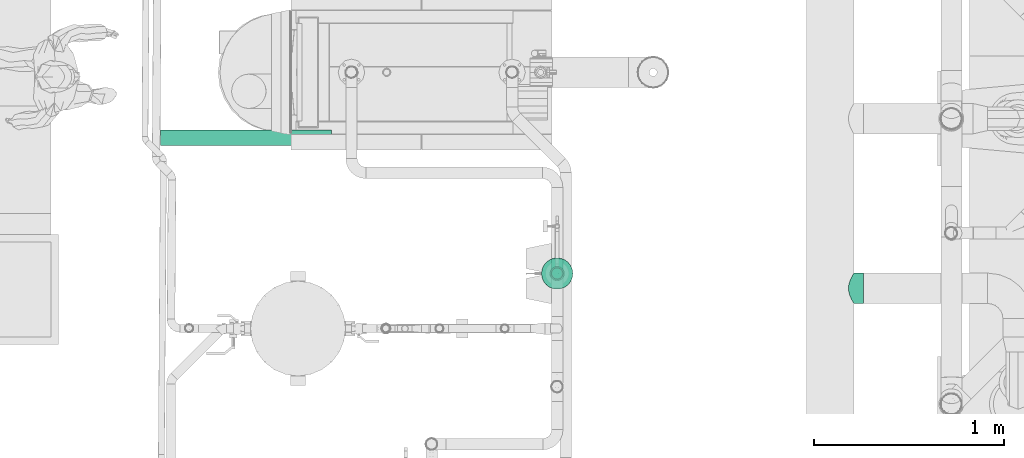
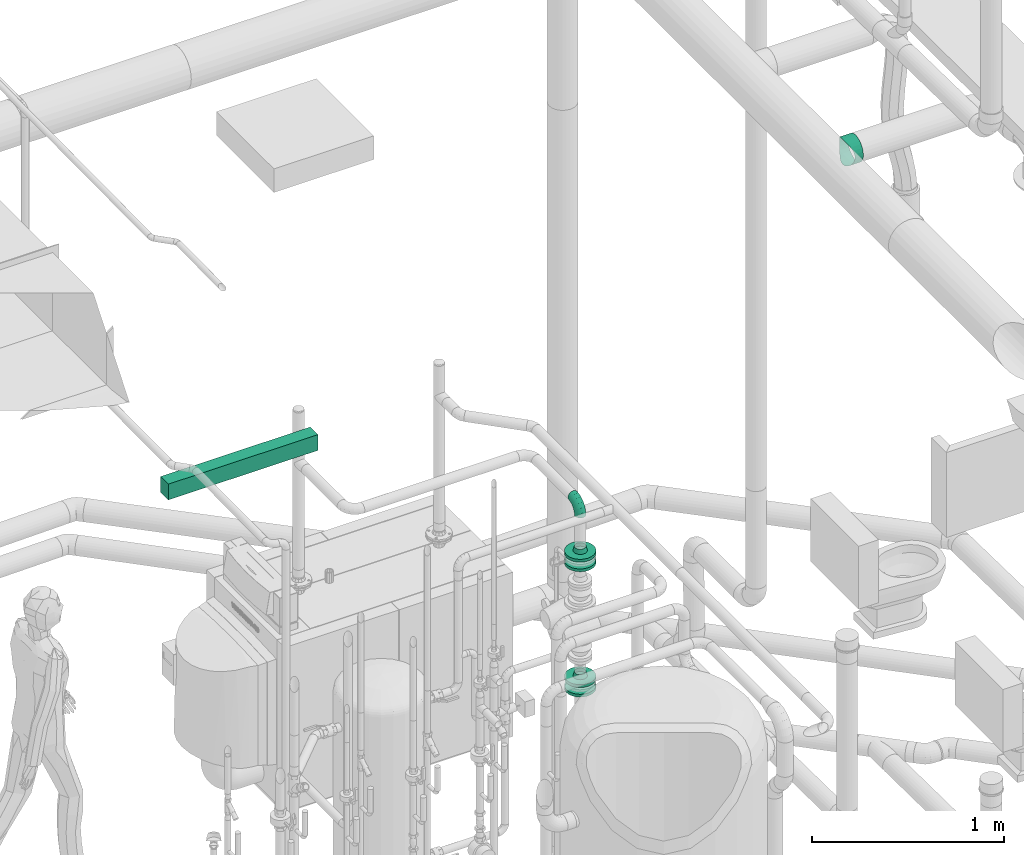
# One storey, part 117 of 374: 4 flow fittings, 2 flow segments, 1 distribution element.
"""IFC2X3 building model written with IfcOpenShell, lengths in metres."""

import ifcopenshell
import ifcopenshell.guid

model = None  # the IFC model being written
_history = None  # IfcOwnerHistory: only IFC2X3 demands one
_inside = {}  # id of a spatial element -> (the spatial element, [elements in it])
_under = {}  # id of a project, library or spatial element -> (it, [spatial elements below it])
_declared = {}  # id of a project -> (the project, [libraries it declares])
_typed = {}  # id of a type object -> (the type object, [elements of that type])
_made_of = {}  # id of a material, layer set ... -> (it, [elements and type objects made of it])


def new_model(schema):
    """Start an empty IFC model of exactly this schema.

    Asked for "IFC4X3", IfcOpenShell would pick the latest addendum, in which some entities
    have other attributes; the version numbers below select the first issue.
    IFC2X3 requires an IfcOwnerHistory on every rooted entity: one is made here for all.
    """
    global model, _history
    if schema == "IFC4X3":
        model = ifcopenshell.file(schema_version=(4, 3, 0, 0))
    else:
        model = ifcopenshell.file(schema=schema)
    _inside.clear()
    _under.clear()
    _declared.clear()
    _typed.clear()
    _made_of.clear()
    _history = None
    if model.schema == "IFC2X3":
        org = make("IfcOrganization", Name="unknown")
        user = make(
            "IfcPersonAndOrganization",
            ThePerson=make("IfcPerson", FamilyName="unknown"),
            TheOrganization=org,
        )
        app = make(
            "IfcApplication",
            ApplicationDeveloper=org,
            Version="unknown",
            ApplicationFullName="unknown",
            ApplicationIdentifier="unknown",
        )
        _history = make(
            "IfcOwnerHistory",
            OwningUser=user,
            OwningApplication=app,
            ChangeAction="ADDED",
            CreationDate=0,
        )
    return model


def make(cls, **values):
    """One entity of the class cls with the attributes given. An attribute that is None is left unset."""
    return model.create_entity(
        cls, **{name: value for name, value in values.items() if value is not None}
    )


def rooted(cls, **values):
    """An entity with a GlobalId (a new one), such as an element, a storey or a relation."""
    return make(cls, GlobalId=ifcopenshell.guid.new(), OwnerHistory=_history, **values)


def si_unit(unit_type, name, prefix=None):
    """IfcSIUnit, for example si_unit("LENGTHUNIT", "METRE", prefix="MILLI")."""
    return make("IfcSIUnit", UnitType=unit_type, Prefix=prefix, Name=name)


def assignment(units):
    """IfcUnitAssignment: the units of a project."""
    return None if units is None else make("IfcUnitAssignment", Units=units)


def point(xyz):
    """IfcCartesianPoint."""
    return None if xyz is None else make("IfcCartesianPoint", Coordinates=xyz)


def direction(xyz):
    """IfcDirection."""
    return None if xyz is None else make("IfcDirection", DirectionRatios=xyz)


def frame(location, z_axis=None, x_axis=None):
    """IfcAxis2Placement3D, a coordinate frame: its origin and axes. An axis left out is left unset."""
    return make(
        "IfcAxis2Placement3D",
        Location=point(location),
        Axis=direction(z_axis),
        RefDirection=direction(x_axis),
    )


def frame_2d(location, x_axis=None):
    """IfcAxis2Placement2D, a coordinate frame in the plane: its origin and x axis."""
    return make(
        "IfcAxis2Placement2D", Location=point(location), RefDirection=direction(x_axis)
    )


def origin():
    """The frame at (0, 0, 0) with its axes left unset."""
    return frame((0.0, 0.0, 0.0))


def place(relative_to, where):
    """IfcLocalPlacement: puts the frame where relative to a parent placement (None: the world)."""
    return make(
        "IfcLocalPlacement", PlacementRelTo=relative_to, RelativePlacement=where
    )


def context(
    kind, dimensions, precision=None, world=None, true_north=None, identifier=None
):
    """IfcGeometricRepresentationContext, for example the 3D "Model" context."""
    return make(
        "IfcGeometricRepresentationContext",
        ContextIdentifier=identifier,
        ContextType=kind,
        CoordinateSpaceDimension=dimensions,
        Precision=precision,
        WorldCoordinateSystem=world,
        TrueNorth=true_north,
    )


def subcontext(parent, identifier, kind, view, scale=None):
    """IfcGeometricRepresentationSubContext, for example "Body" below "Model"."""
    return make(
        "IfcGeometricRepresentationSubContext",
        ContextIdentifier=identifier,
        ContextType=kind,
        ParentContext=parent,
        TargetScale=scale,
        TargetView=view,
    )


def project(units=None, contexts=None):
    """IfcProject with its units and contexts."""
    return rooted(
        "IfcProject",
        Name="project",
        RepresentationContexts=contexts,
        UnitsInContext=assignment(units),
    )


def spatial(cls, under=None, at=None, **own):
    """A site, building, storey or space (cls), placed at a placement, below another one or the project."""
    s = rooted(cls, ObjectPlacement=at, **own)
    if under is not None:
        _under.setdefault(under.id(), (under, []))[1].append(s)
    return s


def profile(cls, at=None, kind="AREA", **sizes):
    """A parametric profile (cls). Its sizes go by their IFC names, for example OverallWidth=200.0."""
    return make(cls, ProfileType=kind, Position=at, **sizes)


def rectangle(**sizes):
    """IfcRectangleProfileDef."""
    return profile("IfcRectangleProfileDef", **sizes)


def extrude(swept, where, along, depth):
    """IfcExtrudedAreaSolid: the profile swept, set in the frame where, extruded along a direction by depth."""
    return make(
        "IfcExtrudedAreaSolid",
        SweptArea=swept,
        Position=where,
        ExtrudedDirection=direction(along),
        Depth=depth,
    )


def faces_of(points, faces, orient=None, outer=None):
    """IfcFace entities. A face is a list of loops; a loop is a list of indices into points, from 0.

    orient and outer hold one flag for each loop. By default every Orientation is true, the
    first loop of a face is its IfcFaceOuterBound and the others are IfcFaceBound.
    """
    made = []
    for i, loops in enumerate(faces):
        bounds = []
        for j, loop in enumerate(loops):
            is_outer = j == 0 if outer is None else outer[i][j]
            bounds.append(
                make(
                    "IfcFaceOuterBound" if is_outer else "IfcFaceBound",
                    Bound=make("IfcPolyLoop", Polygon=[points[k] for k in loop]),
                    Orientation=True if orient is None else orient[i][j],
                )
            )
        made.append(make("IfcFace", Bounds=bounds))
    return made


def open_shell(faces, orient=None, outer=None):
    """The faces of one IfcOpenShell. surface_model builds it on its shared points."""
    return ("IfcOpenShell", faces, orient, outer)


def surface_model(cls, points, shells):
    """IfcFaceBasedSurfaceModel or IfcShellBasedSurfaceModel (cls): surfaces that need not close."""
    shared = [point(p) for p in points]
    made = [make(c, CfsFaces=faces_of(shared, fs, o, b)) for c, fs, o, b in shells]
    if cls == "IfcFaceBasedSurfaceModel":
        return make(cls, FbsmFaces=made)
    return make(cls, SbsmBoundary=made)


def shape(context_of_items, identifier, shape_type, items):
    """IfcShapeRepresentation: the items that make up one representation, for example the "Body"."""
    return make(
        "IfcShapeRepresentation",
        ContextOfItems=context_of_items,
        RepresentationIdentifier=identifier,
        RepresentationType=shape_type,
        Items=items,
    )


def source(mapping_origin, context_of_items, identifier, shape_type, items):
    """IfcRepresentationMap: a shape defined once, which mapped items show again and again."""
    return make(
        "IfcRepresentationMap",
        MappingOrigin=mapping_origin,
        MappedRepresentation=shape(context_of_items, identifier, shape_type, items),
    )


def transform(
    local_origin,
    x_axis=None,
    y_axis=None,
    z_axis=None,
    scale=None,
    scale2=None,
    scale3=None,
    uniform=True,
):
    """IfcCartesianTransformationOperator3D, or its non-uniform kind. x_axis, y_axis, z_axis: its Axis1, 2, 3."""
    if uniform:
        return make(
            "IfcCartesianTransformationOperator3D",
            Axis1=direction(x_axis),
            Axis2=direction(y_axis),
            LocalOrigin=point(local_origin),
            Scale=scale,
            Axis3=direction(z_axis),
        )
    return make(
        "IfcCartesianTransformationOperator3DnonUniform",
        Axis1=direction(x_axis),
        Axis2=direction(y_axis),
        LocalOrigin=point(local_origin),
        Scale=scale,
        Axis3=direction(z_axis),
        Scale2=scale2,
        Scale3=scale3,
    )


def mapped(mapping_source, mapping_target):
    """IfcMappedItem: shows the shape of a source again, moved by a transform."""
    return make(
        "IfcMappedItem", MappingSource=mapping_source, MappingTarget=mapping_target
    )


def made_of(thing, what):
    """Note that an element or type object is made of a material, layer set ...; save() writes the relation."""
    if what is not None:
        _made_of.setdefault(what.id(), (what, []))[1].append(thing)
    return thing


def element(
    cls,
    number,
    at=None,
    inside=None,
    cuts=None,
    type_object=None,
    material=None,
    context=None,
    identifier="Body",
    shape_type=None,
    held_by="IfcProductDefinitionShape",
    body=None,
    shapes=None,
    **own,
):
    """One element of the class cls, such as IfcWall. Its Tag is "e" and its number.

    at: its placement. inside: the storey or other place that contains it. cuts: it is an
    opening in that element (IfcRelVoidsElement). A single representation is given by context,
    identifier, shape_type and body (its items); several are given by shapes. held_by: the class
    of the entity that holds the representations. save() writes the other relations.
    """
    e = rooted(cls, Tag="e%d" % number, ObjectPlacement=at, **own)
    if body is not None:
        shapes = [shape(context, identifier, shape_type, body)]
    if shapes is not None:
        e.Representation = make(held_by, Representations=shapes)
    if inside is not None:
        _inside.setdefault(inside.id(), (inside, []))[1].append(e)
    if cuts is not None:
        rooted(
            "IfcRelVoidsElement", RelatingBuildingElement=cuts, RelatedOpeningElement=e
        )
    if type_object is not None:
        _typed.setdefault(type_object.id(), (type_object, []))[1].append(e)
    return made_of(e, material)


def aggregate(whole, parts):
    """IfcRelAggregates: a whole, such as a stair, and the parts it consists of."""
    return rooted("IfcRelAggregates", RelatingObject=whole, RelatedObjects=parts)


def save(model, path):
    """Write the relations noted so far, then the file.

    IfcRelAggregates (storeys below a building ...), IfcRelContainedInSpatialStructure (elements
    in a storey), IfcRelDefinesByType, IfcRelAssociatesMaterial and IfcRelDeclares: one each for
    every whole, place, type object, material and project.
    """
    for whole, parts in _under.values():
        aggregate(whole, parts)
    for where, things in _inside.values():
        rooted(
            "IfcRelContainedInSpatialStructure",
            RelatedElements=things,
            RelatingStructure=where,
        )
    for kind, things in _typed.values():
        rooted("IfcRelDefinesByType", RelatedObjects=things, RelatingType=kind)
    for what, things in _made_of.values():
        rooted("IfcRelAssociatesMaterial", RelatedObjects=things, RelatingMaterial=what)
    for by, libraries in _declared.values():
        rooted("IfcRelDeclares", RelatingContext=by, RelatedDefinitions=libraries)
    model.write(path)


model = new_model("IFC2X3")

# Units and contexts
model_context = context("Model", 3, precision=1e-05, world=origin(), true_north=direction((-0.4480736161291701, 0.8939966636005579)))
body_context = subcontext(model_context, "Body", "Model", "MODEL_VIEW")
ifc_project = project(units=[si_unit("LENGTHUNIT", "METRE"), si_unit("AREAUNIT", "SQUARE_METRE"), si_unit("VOLUMEUNIT", "CUBIC_METRE"), si_unit("PLANEANGLEUNIT", "RADIAN"), si_unit("THERMODYNAMICTEMPERATUREUNIT", "KELVIN"), si_unit("MASSUNIT", "GRAM", prefix="KILO"), si_unit("TIMEUNIT", "SECOND")], contexts=[model_context])

# Site, building, storey
site_placement = place(None, origin())
site = spatial("IfcSite", under=ifc_project, at=site_placement, Name="Site 1", CompositionType="ELEMENT")
building_placement = place(site_placement, origin())
building = spatial("IfcBuilding", under=site, at=building_placement, Name="Undefined", CompositionType="ELEMENT")
storey_placement = place(building_placement, origin())
storey = spatial("IfcBuildingStorey", under=building, at=storey_placement, Name="Rez de chauss\x8ee", CompositionType="ELEMENT", Elevation=0.0)

# Flow segments
shared_shape_1 = source(origin(), body_context, "Body", "SurfaceModel", [
    surface_model("IfcFaceBasedSurfaceModel", [(0.001726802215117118, 0.020884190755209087, 0.0), (0.0, 0.0, 0.0), (0.051726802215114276, 8.8817842e-16, 0.0), (0.051726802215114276, 0.020884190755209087, 0.0), (-0.0048460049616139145, -0.02017257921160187, -0.005405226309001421), (0.051726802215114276, -0.02017257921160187, -0.005405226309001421), (-0.011805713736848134, -0.0382588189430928, -0.015847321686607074), (0.051726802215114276, -0.0382588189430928, -0.015847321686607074), (-0.019229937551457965, -0.05302617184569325, -0.0306146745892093), (0.051726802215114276, -0.05302617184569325, -0.0306146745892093), (-0.025019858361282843, -0.06346826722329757, -0.04870091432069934), (0.051726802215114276, -0.06346826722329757, -0.04870091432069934), (-0.027226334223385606, -0.06887349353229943, -0.06887349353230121), (0.051726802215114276, -0.06887349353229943, -0.06887349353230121), (-0.025019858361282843, -0.06887349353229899, -0.08975768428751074), (0.051726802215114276, -0.06887349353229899, -0.08975768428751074), (-0.019229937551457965, -0.06346826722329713, -0.10993026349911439), (0.051726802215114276, -0.06346826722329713, -0.10993026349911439), (-0.011805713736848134, -0.05302617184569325, -0.12801650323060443), (0.051726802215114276, -0.05302617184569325, -0.12801650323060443), (-0.0048460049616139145, -0.038258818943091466, -0.14278385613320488), (0.051726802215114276, -0.038258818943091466, -0.14278385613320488), (0.0, -0.020172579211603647, -0.15322595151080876), (0.051726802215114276, -0.020172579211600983, -0.15322595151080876), (0.001726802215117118, 2.220446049e-15, -0.15863117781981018), (0.051726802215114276, 2.220446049e-15, -0.15863117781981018), (0.0, 0.020884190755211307, -0.15863117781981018), (0.051726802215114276, 0.020884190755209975, -0.15863117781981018), (-0.0048460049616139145, 0.04105676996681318, -0.15322595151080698), (0.051726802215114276, 0.04105676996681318, -0.15322595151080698), (-0.011805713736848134, 0.05914300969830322, -0.1427838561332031), (0.051726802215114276, 0.05914300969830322, -0.1427838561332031), (-0.019229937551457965, 0.07391036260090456, -0.12801650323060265), (0.051726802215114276, 0.07391036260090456, -0.12801650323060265), (-0.025019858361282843, 0.08435245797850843, -0.10993026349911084), (0.051726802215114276, 0.08435245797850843, -0.10993026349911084), (-0.027226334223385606, 0.08975768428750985, -0.08975768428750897), (0.051726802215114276, 0.08975768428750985, -0.08975768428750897), (-0.025019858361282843, 0.08975768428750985, -0.06887349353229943), (0.051726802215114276, 0.08975768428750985, -0.06887349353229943), (-0.019229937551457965, 0.08435245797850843, -0.048700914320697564), (0.051726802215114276, 0.08435245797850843, -0.048700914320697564), (-0.011805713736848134, 0.07391036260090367, -0.030614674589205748), (0.051726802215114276, 0.07391036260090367, -0.030614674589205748), (-0.0048460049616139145, 0.05914300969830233, -0.01584732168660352), (0.051726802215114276, 0.05914300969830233, -0.01584732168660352), (0.0, 0.04105676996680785, -0.005405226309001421), (0.051726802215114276, 0.04105676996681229, -0.005405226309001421)], [open_shell([[[0, 1, 2, 3]], [[1, 4, 5, 2]], [[4, 6, 7, 5]], [[6, 8, 9, 7]], [[8, 10, 11, 9]], [[10, 12, 13, 11]], [[12, 14, 15, 13]], [[14, 16, 17, 15]], [[16, 18, 19, 17]], [[18, 20, 21, 19]], [[20, 22, 23, 21]], [[22, 24, 25, 23]], [[24, 26, 27, 25]], [[26, 28, 29, 27]], [[28, 30, 31, 29]], [[30, 32, 33, 31]], [[32, 34, 35, 33]], [[34, 36, 37, 35]], [[36, 38, 39, 37]], [[38, 40, 41, 39]], [[40, 42, 43, 41]], [[42, 44, 45, 43]], [[44, 46, 47, 45]], [[46, 0, 3, 47]]])]),
])
flow_segment_1_placement = place(storey_placement, origin())
element("IfcFlowSegment", 1, at=flow_segment_1_placement, inside=storey, Name="Piquage équerre circulaire", ObjectType="Piquage équerre circulaire", context=body_context, shape_type="MappedRepresentation", body=[
    mapped(shared_shape_1, transform((56.559324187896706, 11.842725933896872, 3.779294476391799), x_axis=(1.0, 0.0, 0.0), y_axis=(0.0, -0.1305261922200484, 0.9914448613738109), z_axis=(0.0, -0.9914448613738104, -0.13052619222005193))),
])
shared_shape_2 = source(origin(), body_context, "Body", "SurfaceModel", [
    surface_model("IfcFaceBasedSurfaceModel", [(0.027710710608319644, 4.4408921e-16, 0.0), (0.02757661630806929, 0.00786958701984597, 7.105427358e-15), (0.00013409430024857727, 0.00786958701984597, 0.0), (0.0, 0.0, 0.0), (-0.02637334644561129, 0.008788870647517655, -0.0070429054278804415), (-0.026766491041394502, 0.0009282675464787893, -0.007111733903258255), (-0.050139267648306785, 0.010564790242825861, -0.02064875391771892), (-0.050764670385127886, 0.0027215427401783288, -0.02085054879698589), (-0.06954406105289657, 0.013076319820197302, -0.03989032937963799), (-0.07035910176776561, 0.00525761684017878, -0.04028016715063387), (-0.0832653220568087, 0.01615230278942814, -0.06345635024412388), (-0.08421445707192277, 0.00836366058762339, -0.06407649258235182), (-0.09036796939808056, 0.019583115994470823, -0.08974083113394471), (-0.0913865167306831, 0.011828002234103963, -0.09061784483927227), (0.027183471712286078, 0.015466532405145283, -0.0020199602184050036), (0.0005272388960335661, 0.015466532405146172, -0.0020199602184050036), (-0.025220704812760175, 0.016359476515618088, -0.008861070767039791), (-0.048305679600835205, 0.018084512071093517, -0.02207708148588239), (-0.06715448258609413, 0.020524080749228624, -0.04076734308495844), (-0.0804825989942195, 0.023511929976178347, -0.06365814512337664), (-0.08738173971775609, 0.026844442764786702, -0.08918951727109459), (0.026558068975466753, 0.022273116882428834, -0.005922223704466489), (0.001152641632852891, 0.02227311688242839, -0.005922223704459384), (-0.02338711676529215, 0.023124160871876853, -0.012442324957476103), (-0.04538886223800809, 0.02476825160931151, -0.02503819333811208), (-0.06335321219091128, 0.027093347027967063, -0.042851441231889), (-0.07605592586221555, 0.029940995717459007, -0.06466812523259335), (-0.08263133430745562, 0.033117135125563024, -0.08900147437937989), (0.025743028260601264, 0.0278254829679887, -0.011440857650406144), (0.0019676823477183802, 0.027825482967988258, -0.011440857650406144), (-0.020997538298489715, 0.028621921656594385, -0.017542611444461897), (-0.04158759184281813, 0.03016052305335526, -0.029330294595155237), (-0.058399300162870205, 0.0323364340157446, -0.04600059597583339), (-0.07028697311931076, 0.03500136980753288, -0.06641746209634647), (-0.07644048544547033, 0.0379737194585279, -0.08918951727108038), (0.02479389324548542, 0.03174524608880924, -0.01819977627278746), (0.0029168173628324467, 0.03174524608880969, -0.01819977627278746), (-0.018214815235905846, 0.0324780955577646, -0.023814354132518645), (-0.03716091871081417, 0.033893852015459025, -0.034660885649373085), (-0.052630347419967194, 0.03589603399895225, -0.05000019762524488), (-0.06356888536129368, 0.03834819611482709, -0.06878694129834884), (-0.06923108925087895, 0.041083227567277, -0.0897408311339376), (0.023775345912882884, 0.03376528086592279, -0.02573837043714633), (0.003935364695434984, 0.03376528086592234, -0.02573837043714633), (-0.01522858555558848, 0.03442989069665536, -0.03083014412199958), (-0.0324105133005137, 0.03571381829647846, -0.040666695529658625), (-0.046439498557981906, 0.0375295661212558, -0.05457767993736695), (-0.05635948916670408, 0.039753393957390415, -0.07161508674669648), (-0.061494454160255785, 0.04223375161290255, -0.09061784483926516), (0.022756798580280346, 0.03374792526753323, -0.033542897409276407), (0.0049539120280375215, 0.033747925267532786, -0.033542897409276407), (-0.01224235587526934, 0.03434429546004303, -0.03811186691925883), (-0.027660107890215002, 0.035496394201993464, -0.04693843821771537), (-0.040248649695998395, 0.0371257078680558, -0.05942109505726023), (-0.04915009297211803, 0.039121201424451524, -0.07470916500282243), (-0.05375781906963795, 0.041346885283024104, -0.09176079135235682), (0.02180766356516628, 0.03169436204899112, -0.04108149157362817), (0.005903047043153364, 0.031694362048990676, -0.04108149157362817), (-0.00945963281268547, 0.03222714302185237, -0.045163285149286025), (-0.02323343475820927, 0.03325639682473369, -0.05304870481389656), (-0.034479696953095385, 0.034711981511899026, -0.06420037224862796), (-0.04243200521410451, 0.036494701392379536, -0.07785831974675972), (-0.04654842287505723, 0.03848306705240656, -0.09309178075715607), (0.020992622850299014, 0.02774453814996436, -0.0478404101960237), (0.006718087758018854, 0.027744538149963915, -0.0478404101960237), (-0.007070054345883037, 0.02822271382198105, -0.05150385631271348), (-0.019432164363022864, 0.0291464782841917, -0.0585810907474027), (-0.029525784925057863, 0.030452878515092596, -0.06858981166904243), (-0.03666305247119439, 0.032052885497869, -0.08084794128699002), (-0.04035757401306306, 0.03383746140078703, -0.09452010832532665), (0.020367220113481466, 0.022167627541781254, -0.05335904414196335), (0.0073434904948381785, 0.022167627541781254, -0.05335904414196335), (-0.00523646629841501, 0.02260390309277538, -0.05670148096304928), (-0.016515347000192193, 0.023446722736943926, -0.06315857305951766), (-0.025724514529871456, 0.02463864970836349, -0.07229028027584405), (-0.03223637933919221, 0.02609845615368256, -0.0834742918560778), (-0.03560716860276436, 0.027726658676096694, -0.09594843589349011), (0.019974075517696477, 0.01534368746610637, -0.05726130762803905), (0.007736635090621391, 0.01534368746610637, -0.05726130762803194), (-0.004083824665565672, 0.01575362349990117, -0.06040194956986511), (-0.014681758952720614, 0.01654555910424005, -0.06646920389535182), (-0.02333493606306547, 0.01766552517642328, -0.07504959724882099), (-0.029453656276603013, 0.01903719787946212, -0.08555839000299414), (-0.032620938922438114, 0.02056709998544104, -0.09727942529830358), (0.019839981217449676, 0.00773775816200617, -0.05928126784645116), (0.007870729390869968, 0.007737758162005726, -0.05928126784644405), (-0.003690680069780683, 0.008138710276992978, -0.062353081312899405), (-0.014056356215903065, 0.008913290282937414, -0.06828736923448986), (-0.022519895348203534, 0.01000871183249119, -0.07667971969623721), (-0.0285045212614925, 0.011350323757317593, -0.08695820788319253), (-0.03160239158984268, 0.012846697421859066, -0.09842237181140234), (0.019974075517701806, -0.0001318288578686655, -0.05928126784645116), (0.007736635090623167, -0.0001318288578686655, -0.059281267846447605), (-0.004083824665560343, 0.0002781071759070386, -0.062421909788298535), (-0.014681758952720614, 0.001070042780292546, -0.06848916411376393), (-0.02333493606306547, 0.0021900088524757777, -0.0770695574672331), (-0.029453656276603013, 0.0035616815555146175, -0.08757835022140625), (-0.032620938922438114, 0.005091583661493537, -0.09929938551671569), (0.020367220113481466, -0.007728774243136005, -0.057261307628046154), (0.0073434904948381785, -0.007728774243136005, -0.057261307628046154), (-0.00523646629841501, -0.00729249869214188, -0.06060374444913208), (-0.016515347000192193, -0.0064496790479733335, -0.06706083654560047), (-0.025724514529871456, -0.005257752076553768, -0.07619254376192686), (-0.03223637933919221, -0.0037979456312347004, -0.0873765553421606), (-0.03560716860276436, -0.0021697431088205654, -0.09985069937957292), (0.020992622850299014, -0.01453535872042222, -0.053359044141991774), (0.006718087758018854, -0.014535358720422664, -0.053359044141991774), (-0.007070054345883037, -0.01405718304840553, -0.05702249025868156), (-0.019432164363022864, -0.013133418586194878, -0.06409972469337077), (-0.029525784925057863, -0.011827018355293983, -0.07410844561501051), (-0.03666305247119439, -0.01022701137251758, -0.0863665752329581), (-0.04035757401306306, -0.008442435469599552, -0.10003874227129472), (0.02180766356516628, -0.020087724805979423, -0.04784041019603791), (0.005903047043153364, -0.020087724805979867, -0.04784041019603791), (-0.00945963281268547, -0.019554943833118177, -0.05192220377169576), (-0.02323343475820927, -0.018525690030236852, -0.0598076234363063), (-0.034479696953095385, -0.017070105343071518, -0.0709592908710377), (-0.04243200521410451, -0.015287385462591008, -0.08461723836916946), (-0.04654842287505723, -0.013299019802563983, -0.09985069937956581), (0.022756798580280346, -0.024007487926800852, -0.0410814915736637), (0.0049539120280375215, -0.024007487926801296, -0.0410814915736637), (-0.01224235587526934, -0.023411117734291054, -0.04565046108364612), (-0.027660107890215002, -0.022259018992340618, -0.054477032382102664), (-0.040248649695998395, -0.02062970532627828, -0.06695968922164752), (-0.04915009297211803, -0.018634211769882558, -0.08224775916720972), (-0.05375781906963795, -0.016408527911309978, -0.09929938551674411), (0.023775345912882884, -0.026027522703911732, -0.033542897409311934), (0.003935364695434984, -0.026027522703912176, -0.033542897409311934), (-0.01522858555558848, -0.025362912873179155, -0.038634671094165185), (-0.0324105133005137, -0.024078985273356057, -0.04847122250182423), (-0.046439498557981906, -0.02226323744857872, -0.062382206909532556), (-0.05635948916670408, -0.020039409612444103, -0.07941961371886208), (-0.061494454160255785, -0.01755905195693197, -0.09842237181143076), (0.02479389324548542, -0.02601016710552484, -0.02573837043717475), (0.0029168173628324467, -0.026010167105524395, -0.02573837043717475), (-0.018214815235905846, -0.025277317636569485, -0.031352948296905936), (-0.03716091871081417, -0.023861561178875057, -0.04219947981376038), (-0.052630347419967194, -0.021859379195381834, -0.05753879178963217), (-0.06356888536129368, -0.01940721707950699, -0.07632553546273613), (-0.06923108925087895, -0.01667218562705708, -0.0972794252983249), (0.025743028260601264, -0.023956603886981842, -0.018199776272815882), (0.0019676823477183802, -0.023956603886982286, -0.018199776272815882), (-0.020997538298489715, -0.02316016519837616, -0.024301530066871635), (-0.04158759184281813, -0.021621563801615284, -0.036089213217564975), (-0.058399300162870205, -0.019445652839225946, -0.05275951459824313), (-0.07028697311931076, -0.016780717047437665, -0.0731763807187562), (-0.07644048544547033, -0.013808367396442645, -0.09594843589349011), (0.026558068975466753, -0.020006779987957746, -0.011440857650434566), (0.001152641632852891, -0.02000677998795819, -0.01144085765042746), (-0.02338711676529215, -0.019155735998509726, -0.01796095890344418), (-0.04538886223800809, -0.01751164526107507, -0.030556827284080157), (-0.06335321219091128, -0.015186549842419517, -0.048370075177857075), (-0.07605592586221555, -0.012338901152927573, -0.07018675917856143), (-0.08263133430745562, -0.009162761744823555, -0.09452010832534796), (0.027183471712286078, -0.014429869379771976, -0.005922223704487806), (0.0005272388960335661, -0.014429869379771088, -0.005922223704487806), (-0.025220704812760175, -0.013536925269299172, -0.012763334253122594), (-0.048305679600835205, -0.011811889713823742, -0.02597934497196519), (-0.06715448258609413, -0.009372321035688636, -0.04466960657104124), (-0.0804825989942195, -0.006384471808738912, -0.06756040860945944), (-0.08738173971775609, -0.003051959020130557, -0.09309178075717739), (0.02757661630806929, -0.007605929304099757, -0.0020199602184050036), (0.00013409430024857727, -0.007605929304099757, -0.002019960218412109), (-0.02637334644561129, -0.006686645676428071, -0.00906286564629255), (-0.050139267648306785, -0.004910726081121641, -0.02266871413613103), (-0.06954406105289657, -0.0023991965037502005, -0.0419102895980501), (-0.0832653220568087, 0.0006767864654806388, -0.06547631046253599), (-0.09036796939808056, 0.004107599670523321, -0.09176079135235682)], [open_shell([[[0, 1, 2, 3]], [[3, 2, 4, 5]], [[5, 4, 6, 7]], [[7, 6, 8, 9]], [[9, 8, 10, 11]], [[11, 10, 12, 13]], [[1, 14, 15, 2]], [[2, 15, 16, 4]], [[4, 16, 17, 6]], [[6, 17, 18, 8]], [[8, 18, 19, 10]], [[10, 19, 20, 12]], [[14, 21, 22, 15]], [[15, 22, 23, 16]], [[16, 23, 24, 17]], [[17, 24, 25, 18]], [[18, 25, 26, 19]], [[19, 26, 27, 20]], [[21, 28, 29, 22]], [[22, 29, 30, 23]], [[23, 30, 31, 24]], [[24, 31, 32, 25]], [[25, 32, 33, 26]], [[26, 33, 34, 27]], [[28, 35, 36, 29]], [[29, 36, 37, 30]], [[30, 37, 38, 31]], [[31, 38, 39, 32]], [[32, 39, 40, 33]], [[33, 40, 41, 34]], [[35, 42, 43, 36]], [[36, 43, 44, 37]], [[37, 44, 45, 38]], [[38, 45, 46, 39]], [[39, 46, 47, 40]], [[40, 47, 48, 41]], [[42, 49, 50, 43]], [[43, 50, 51, 44]], [[44, 51, 52, 45]], [[45, 52, 53, 46]], [[46, 53, 54, 47]], [[47, 54, 55, 48]], [[49, 56, 57, 50]], [[50, 57, 58, 51]], [[51, 58, 59, 52]], [[52, 59, 60, 53]], [[53, 60, 61, 54]], [[54, 61, 62, 55]], [[56, 63, 64, 57]], [[57, 64, 65, 58]], [[58, 65, 66, 59]], [[59, 66, 67, 60]], [[60, 67, 68, 61]], [[61, 68, 69, 62]], [[63, 70, 71, 64]], [[64, 71, 72, 65]], [[65, 72, 73, 66]], [[66, 73, 74, 67]], [[67, 74, 75, 68]], [[68, 75, 76, 69]], [[70, 77, 78, 71]], [[71, 78, 79, 72]], [[72, 79, 80, 73]], [[73, 80, 81, 74]], [[74, 81, 82, 75]], [[75, 82, 83, 76]], [[77, 84, 85, 78]], [[78, 85, 86, 79]], [[79, 86, 87, 80]], [[80, 87, 88, 81]], [[81, 88, 89, 82]], [[82, 89, 90, 83]], [[84, 91, 92, 85]], [[85, 92, 93, 86]], [[86, 93, 94, 87]], [[87, 94, 95, 88]], [[88, 95, 96, 89]], [[89, 96, 97, 90]], [[91, 98, 99, 92]], [[92, 99, 100, 93]], [[93, 100, 101, 94]], [[94, 101, 102, 95]], [[95, 102, 103, 96]], [[96, 103, 104, 97]], [[98, 105, 106, 99]], [[99, 106, 107, 100]], [[100, 107, 108, 101]], [[101, 108, 109, 102]], [[102, 109, 110, 103]], [[103, 110, 111, 104]], [[105, 112, 113, 106]], [[106, 113, 114, 107]], [[107, 114, 115, 108]], [[108, 115, 116, 109]], [[109, 116, 117, 110]], [[110, 117, 118, 111]], [[112, 119, 120, 113]], [[113, 120, 121, 114]], [[114, 121, 122, 115]], [[115, 122, 123, 116]], [[116, 123, 124, 117]], [[117, 124, 125, 118]], [[119, 126, 127, 120]], [[120, 127, 128, 121]], [[121, 128, 129, 122]], [[122, 129, 130, 123]], [[123, 130, 131, 124]], [[124, 131, 132, 125]], [[126, 133, 134, 127]], [[127, 134, 135, 128]], [[128, 135, 136, 129]], [[129, 136, 137, 130]], [[130, 137, 138, 131]], [[131, 138, 139, 132]], [[133, 140, 141, 134]], [[134, 141, 142, 135]], [[135, 142, 143, 136]], [[136, 143, 144, 137]], [[137, 144, 145, 138]], [[138, 145, 146, 139]], [[140, 147, 148, 141]], [[141, 148, 149, 142]], [[142, 149, 150, 143]], [[143, 150, 151, 144]], [[144, 151, 152, 145]], [[145, 152, 153, 146]], [[147, 154, 155, 148]], [[148, 155, 156, 149]], [[149, 156, 157, 150]], [[150, 157, 158, 151]], [[151, 158, 159, 152]], [[152, 159, 160, 153]], [[154, 161, 162, 155]], [[155, 162, 163, 156]], [[156, 163, 164, 157]], [[157, 164, 165, 158]], [[158, 165, 166, 159]], [[159, 166, 167, 160]], [[161, 0, 3, 162]], [[162, 3, 5, 163]], [[163, 5, 7, 164]], [[164, 7, 9, 165]], [[165, 9, 11, 166]], [[166, 11, 13, 167]]])]),
])
flow_segment_2_placement = place(storey_placement, origin())
element("IfcFlowSegment", 2, at=flow_segment_2_placement, inside=storey, Name="Tube coudé", ObjectType="Tube coudé", context=body_context, shape_type="MappedRepresentation", body=[
    mapped(shared_shape_2, transform((54.999329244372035, 12.046202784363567, 2.0861747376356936), x_axis=(0.0, 0.9914448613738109, 0.1305261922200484), y_axis=(-0.9915887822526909, 0.016893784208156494, -0.12832103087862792), z_axis=(-0.1294283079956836, -0.12942830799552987, 0.9831056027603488))),
])

# Flow fittings
shared_shape_3 = source(origin(), body_context, "Body", "SurfaceModel", [
    surface_model("IfcFaceBasedSurfaceModel", [(0.0, 0.0, 0.0), (0.021536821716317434, 0.0, -3.552713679e-15), (0.021536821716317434, 0.018000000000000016, -3.552713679e-15), (0.0, 0.018000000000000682, -1.776356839e-15), (0.0423397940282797, 0.0, -0.005574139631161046), (0.0423397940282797, 0.018000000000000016, -0.005574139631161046), (0.06099122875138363, 0.0, -0.016342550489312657), (0.06099122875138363, 0.018000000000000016, -0.016342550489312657), (0.0762200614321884, 0.0, -0.03157138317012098), (0.0762200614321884, 0.018000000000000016, -0.03157138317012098), (0.08698847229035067, 0.0, -0.05022281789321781), (0.08698847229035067, 0.018000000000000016, -0.05022281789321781), (0.09256261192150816, 0.0, -0.07102579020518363), (0.09256261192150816, 0.018000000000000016, -0.07102579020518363), (0.09256261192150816, 0.0, -0.0925626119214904), (0.09256261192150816, 0.018000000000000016, -0.0925626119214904), (0.08698847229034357, 0.0, -0.11336558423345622), (0.08698847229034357, 0.018000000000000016, -0.11336558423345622), (0.07622006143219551, 0.0, -0.1320170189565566), (0.07622006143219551, 0.018000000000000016, -0.1320170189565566), (0.06099122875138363, 0.0, -0.14724585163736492), (0.06099122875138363, 0.018000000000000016, -0.14724585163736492), (0.042339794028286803, 0.0, -0.15801426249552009), (0.042339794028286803, 0.018000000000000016, -0.15801426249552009), (0.021536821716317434, 0.0, -0.16358840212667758), (0.021536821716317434, 0.018000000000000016, -0.16358840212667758), (7.105427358e-15, 0.0, -0.16358840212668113), (7.105427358e-15, 0.018000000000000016, -0.16358840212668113), (-0.02080297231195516, 0.0, -0.15801426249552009), (-0.02080297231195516, 0.018000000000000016, -0.15801426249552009), (-0.039454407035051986, 0.0, -0.14724585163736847), (-0.039454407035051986, 0.018000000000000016, -0.14724585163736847), (-0.05468323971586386, 0.0, -0.13201701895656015), (-0.05468323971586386, 0.018000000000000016, -0.13201701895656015), (-0.06545165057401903, 0.0, -0.11336558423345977), (-0.06545165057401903, 0.018000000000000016, -0.11336558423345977), (-0.07102579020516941, 0.0, -0.09256261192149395), (-0.07102579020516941, 0.018000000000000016, -0.09256261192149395), (-0.07102579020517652, 0.0, -0.07102579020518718), (-0.07102579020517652, 0.018000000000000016, -0.07102579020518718), (-0.06545165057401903, 0.0, -0.050222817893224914), (-0.06545165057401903, 0.018000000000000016, -0.050222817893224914), (-0.05468323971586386, 0.0, -0.03157138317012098), (-0.05468323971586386, 0.018000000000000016, -0.03157138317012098), (-0.03945440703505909, 0.0, -0.01634255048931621), (-0.03945440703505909, 0.018000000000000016, -0.01634255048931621), (-0.02080297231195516, 0.0, -0.005574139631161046), (-0.02080297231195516, 0.018000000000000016, -0.005574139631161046), (0.01076841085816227, 0.018000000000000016, -0.08179420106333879), (0.04794759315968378, 0.018000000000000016, -0.07689946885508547), (0.04794759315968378, 0.018000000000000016, -0.0866889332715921), (0.04066047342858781, 0.04499999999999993, -0.085729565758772), (0.0406604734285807, 0.04499999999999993, -0.07785883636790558), (0.045413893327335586, 0.018000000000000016, -0.09614482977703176), (0.038623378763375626, 0.04499999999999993, -0.09333210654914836), (0.04051916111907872, 0.018000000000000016, -0.10462275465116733), (0.034688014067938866, 0.04499999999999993, -0.1001483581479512), (0.03359696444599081, 0.018000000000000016, -0.11154495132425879), (0.029122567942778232, 0.04499999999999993, -0.10571380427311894), (0.02511903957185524, 0.018000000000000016, -0.1164396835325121), (0.022306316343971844, 0.04499999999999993, -0.1096491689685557), (0.015663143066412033, 0.018000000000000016, -0.11897338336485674), (0.014703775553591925, 0.04499999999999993, -0.11168626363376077), (0.0058736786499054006, 0.018000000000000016, -0.11897338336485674), (0.0068330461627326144, 0.04499999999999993, -0.11168626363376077), (-0.0035822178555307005, 0.018000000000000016, -0.11643968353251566), (-0.0007694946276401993, 0.04499999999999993, -0.10964916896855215), (-0.012060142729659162, 0.018000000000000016, -0.11154495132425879), (-0.0075857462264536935, 0.04499999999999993, -0.10571380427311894), (-0.018982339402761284, 0.018000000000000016, -0.10462275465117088), (-0.013151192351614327, 0.04499999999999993, -0.1001483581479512), (-0.023877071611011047, 0.018000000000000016, -0.09614482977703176), (-0.017086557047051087, 0.04499999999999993, -0.09333210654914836), (-0.026410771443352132, 0.018000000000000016, -0.0866889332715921), (-0.019123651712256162, 0.04499999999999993, -0.08572956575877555), (-0.026410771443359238, 0.018000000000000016, -0.07689946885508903), (-0.019123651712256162, 0.04499999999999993, -0.07785883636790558), (-0.023877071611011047, 0.018000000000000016, -0.06744357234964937), (-0.017086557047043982, 0.04499999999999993, -0.07025629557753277), (-0.018982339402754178, 0.018000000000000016, -0.058965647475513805), (-0.013151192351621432, 0.04499999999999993, -0.06344004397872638), (-0.012060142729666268, 0.018000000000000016, -0.05204345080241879), (-0.007585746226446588, 0.04499999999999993, -0.05787459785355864), (-0.0035822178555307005, 0.018000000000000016, -0.047148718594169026), (-0.0007694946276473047, 0.04499999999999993, -0.05393923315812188), (0.0058736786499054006, 0.018000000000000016, -0.04461501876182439), (0.006833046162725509, 0.04499999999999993, -0.05190213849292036), (0.01566314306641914, 0.018000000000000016, -0.044615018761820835), (0.014703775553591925, 0.04499999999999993, -0.051902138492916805), (0.02511903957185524, 0.018000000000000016, -0.04714871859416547), (0.022306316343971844, 0.04499999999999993, -0.05393923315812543), (0.0335969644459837, 0.018000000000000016, -0.05204345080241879), (0.029122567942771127, 0.04499999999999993, -0.05787459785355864), (0.04051916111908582, 0.018000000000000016, -0.05896564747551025), (0.03468801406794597, 0.04499999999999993, -0.06344004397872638), (0.045413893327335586, 0.018000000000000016, -0.06744357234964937), (0.03862337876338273, 0.04499999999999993, -0.07025629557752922)], [open_shell([[[0, 1, 2, 3]], [[1, 4, 5, 2]], [[4, 6, 7, 5]], [[6, 8, 9, 7]], [[8, 10, 11, 9]], [[10, 12, 13, 11]], [[12, 14, 15, 13]], [[14, 16, 17, 15]], [[16, 18, 19, 17]], [[18, 20, 21, 19]], [[20, 22, 23, 21]], [[22, 24, 25, 23]], [[24, 26, 27, 25]], [[26, 28, 29, 27]], [[28, 30, 31, 29]], [[30, 32, 33, 31]], [[32, 34, 35, 33]], [[34, 36, 37, 35]], [[36, 38, 39, 37]], [[38, 40, 41, 39]], [[40, 42, 43, 41]], [[42, 44, 45, 43]], [[44, 46, 47, 45]], [[46, 0, 3, 47]], [[48, 47, 3]], [[48, 45, 47]], [[48, 43, 45]], [[48, 41, 43]], [[48, 39, 41]], [[48, 37, 39]], [[48, 35, 37]], [[48, 33, 35]], [[48, 31, 33]], [[48, 29, 31]], [[48, 27, 29]], [[48, 25, 27]], [[48, 23, 25]], [[48, 21, 23]], [[48, 19, 21]], [[48, 17, 19]], [[48, 15, 17]], [[48, 13, 15]], [[48, 11, 13]], [[48, 9, 11]], [[48, 7, 9]], [[48, 5, 7]], [[48, 2, 5]], [[48, 3, 2]], [[49, 50, 51, 52]], [[50, 53, 54, 51]], [[53, 55, 56, 54]], [[55, 57, 58, 56]], [[57, 59, 60, 58]], [[59, 61, 62, 60]], [[61, 63, 64, 62]], [[63, 65, 66, 64]], [[65, 67, 68, 66]], [[67, 69, 70, 68]], [[69, 71, 72, 70]], [[71, 73, 74, 72]], [[73, 75, 76, 74]], [[75, 77, 78, 76]], [[77, 79, 80, 78]], [[79, 81, 82, 80]], [[81, 83, 84, 82]], [[83, 85, 86, 84]], [[85, 87, 88, 86]], [[87, 89, 90, 88]], [[89, 91, 92, 90]], [[91, 93, 94, 92]], [[93, 95, 96, 94]], [[95, 49, 52, 96]]])]),
])
flow_fitting_1_placement = place(storey_placement, origin())
element("IfcFlowFitting", 3, at=flow_fitting_1_placement, inside=storey, Name="Bride", ObjectType="Bride", context=body_context, shape_type="MappedRepresentation", body=[
    mapped(shared_shape_3, transform((54.999329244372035, 12.080176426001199, 0.8999161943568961), x_axis=(0.9914448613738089, -0.13052619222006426, 0.0), y_axis=(0.0, 0.0, -1.0), z_axis=(0.13052619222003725, 0.9914448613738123, 0.0))),
])
flow_fitting_2_placement = place(storey_placement, origin())
element("IfcFlowFitting", 4, at=flow_fitting_2_placement, inside=storey, Name="Bride", ObjectType="Bride", context=body_context, shape_type="MappedRepresentation", body=[
    mapped(shared_shape_3, transform((54.999329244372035, 12.080176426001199, 0.9429161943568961), x_axis=(-0.9914448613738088, -0.13052619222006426, 0.0), y_axis=(0.0, 0.0, 1.0), z_axis=(-0.13052619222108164, 0.9914448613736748, 0.0))),
])
flow_fitting_3_placement = place(storey_placement, origin())
element("IfcFlowFitting", 5, at=flow_fitting_3_placement, inside=storey, Name="Bride", ObjectType="Bride", context=body_context, shape_type="MappedRepresentation", body=[
    mapped(shared_shape_3, transform((54.999329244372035, 12.080176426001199, 1.6964691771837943), x_axis=(0.9914448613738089, -0.13052619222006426, 0.0), y_axis=(0.0, 0.0, -1.0), z_axis=(0.13052619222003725, 0.9914448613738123, 0.0))),
])
flow_fitting_4_placement = place(storey_placement, origin())
element("IfcFlowFitting", 6, at=flow_fitting_4_placement, inside=storey, Name="Bride", ObjectType="Bride", context=body_context, shape_type="MappedRepresentation", body=[
    mapped(shared_shape_3, transform((54.999329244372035, 12.080176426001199, 1.7394691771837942), x_axis=(-0.9914448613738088, -0.13052619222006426, 0.0), y_axis=(0.0, 0.0, 1.0), z_axis=(-0.13052619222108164, 0.9914448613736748, 0.0))),
])

# Distribution element
distribution_element_placement = place(storey_placement, origin())
element("IfcDistributionElement", 7, at=distribution_element_placement, inside=storey, Name="T5 1-flammig 21W", ObjectType="T5 1-flammig 21W", context=body_context, shape_type="SweptSolid", body=[
    extrude(rectangle(XDim=0.9, YDim=0.08, at=frame_2d((3.552713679e-15, 0.0), x_axis=(1.0, 0.0))), frame((53.362500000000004, 12.712499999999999, 2.399)), (0.0, 0.0, 1.0), 0.1),
])

save(model, "model.ifc")
